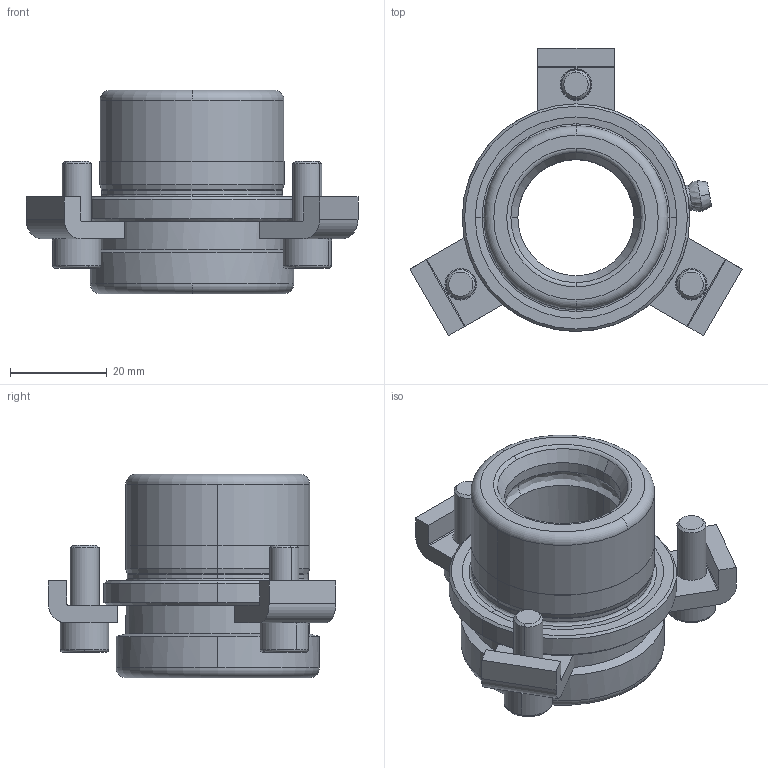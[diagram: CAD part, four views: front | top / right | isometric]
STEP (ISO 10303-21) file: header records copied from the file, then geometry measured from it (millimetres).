
FILE_DESCRIPTION((''),'2;1');
FILE_NAME('B10_024_020.stp','2008-11-04T16:50:51',(''),(''),'Mechanical Desktop 2009','Mechanical Desktop 2009',', , ');
FILE_SCHEMA(('CONFIG_CONTROL_DESIGN'));
Length unit declared in the file: millimetre
Products named in the file (2): Product; blmdl1
Assembly tree (1 placements, depth 2):
  Product
    blmdl1
Bounding box: 68.57 x 59.38 x 42 mm (x, y, z)
Volume: 38076.1 mm3; surface area: 16205.4 mm2
Topology: 8 solids, 8 shells, 170 faces, 436 edges, 289 vertices
Faces by surface type: plane 69, cylinder 49, cone 20, bspline 16, torus 16
Entity records: 6446 total; most frequent: CARTESIAN_POINT 2108, DIRECTION 936, ORIENTED_EDGE 864, EDGE_CURVE 432, AXIS2_PLACEMENT_3D 374, VERTEX_POINT 287, CIRCLE 218, EDGE_LOOP 189
